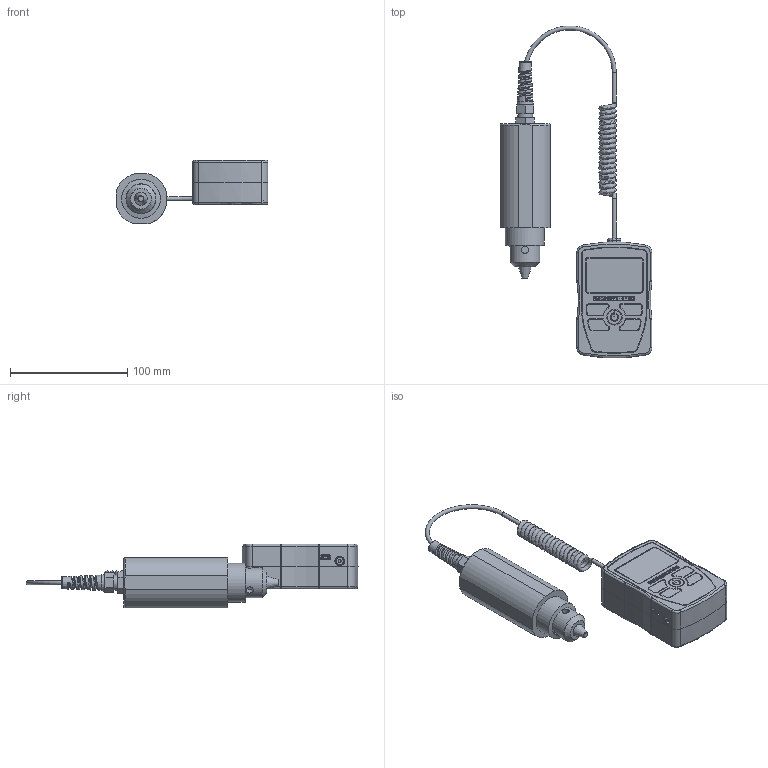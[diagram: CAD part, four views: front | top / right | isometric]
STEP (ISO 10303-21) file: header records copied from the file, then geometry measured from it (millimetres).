
FILE_DESCRIPTION((''),'2;1');
FILE_NAME('F:\CAD files\Itr\3D MARKETING MODELS\TORQUE GAUGES\TT03\TT03_10Z_20Z_50Z.stp','2017-06-01T10:28:22',('mlampen'),(''),'Autodesk Inventor 2010','Autodesk Inventor 2010','');
FILE_SCHEMA(('AUTOMOTIVE_DESIGN { 1 0 10303 214 1 1 1 1 }'));
Length unit declared in the file: inch
Products named in the file (1): Part2
Bounding box: 129.78 x 283.73 x 54.48 mm (x, y, z)
Volume: 399931.7 mm3; surface area: 60045.8 mm2
Topology: 2 solids, 2 shells, 741 faces, 1846 edges, 1178 vertices
Faces by surface type: plane 350, cylinder 181, bspline 115, cone 62, torus 33
Full cylindrical faces by diameter (mm): 2.5 x1, 3.429 x3, 3.505 x4, 4 x2, 5.486 x2, 5.74 x5, 6.096 x3, 6.299 x1, 6.35 x6, 6.756 x1, 7.62 x7, 11.176 x1, 12.065 x1, 12.192 x1, 12.7 x1, 13.335 x1, 25.4 x1, 33.274 x1
Entity records: 27532 total; most frequent: CARTESIAN_POINT 10942, ORIENTED_EDGE 3456, DIRECTION 3205, EDGE_CURVE 1728, VERTEX_POINT 1142, AXIS2_PLACEMENT_3D 1122, VECTOR 961, LINE 961
